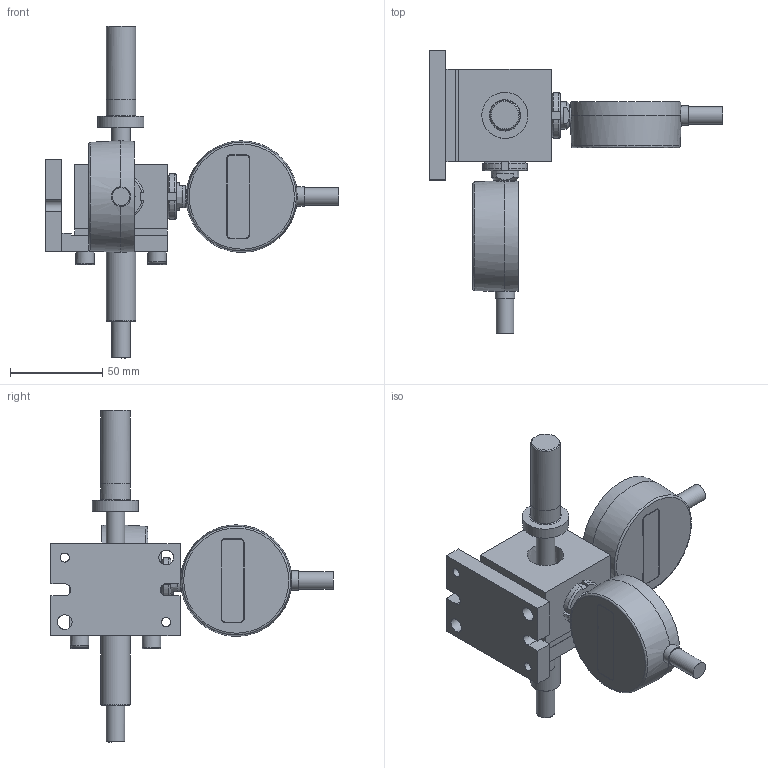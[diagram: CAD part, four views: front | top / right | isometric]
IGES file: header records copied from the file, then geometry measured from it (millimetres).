
Global section: file name: 10.00-COMP-B-SQ; native system: Autodesk Inventor 2019; preprocessor: unknown; author: AP.to; date: 20201102.170559; units: millimetre
Bounding box: 159 x 153 x 180 mm (x, y, z)
Volume: 307410.7 mm3; surface area: 88677.7 mm2
Topology: 21 solids, 21 shells, 350 faces, 912 edges, 636 vertices
Faces by surface type: bspline 350
